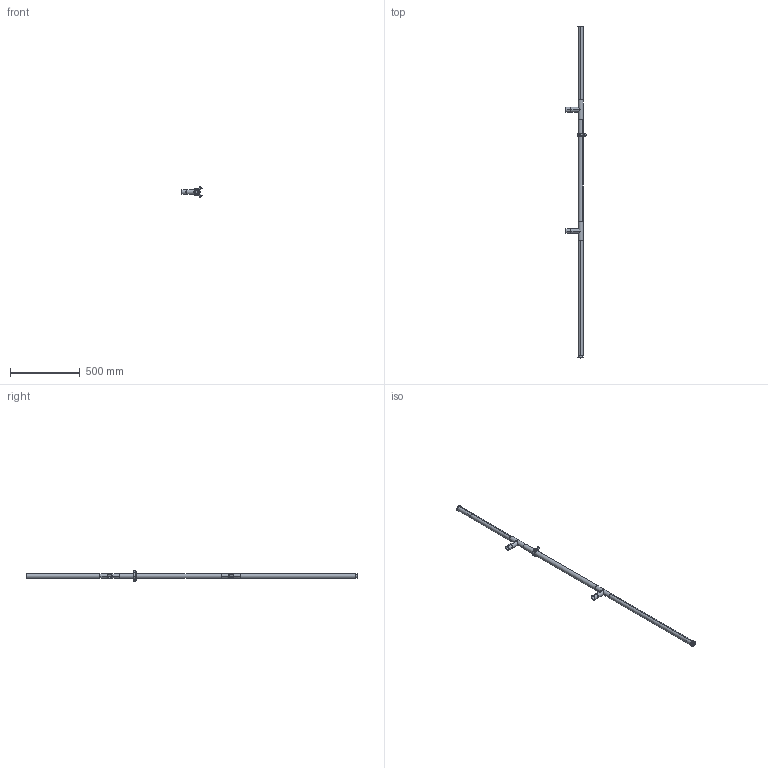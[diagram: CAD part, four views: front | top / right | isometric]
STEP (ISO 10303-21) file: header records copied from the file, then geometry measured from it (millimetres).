
FILE_DESCRIPTION (( 'STEP AP203' ), '1' );
FILE_NAME ('INFTC2380.STEP', '2026-03-03T08:03:34', ( '' ), ( '' ), 'SwSTEP 2.0', 'SolidWorks 2025', '' );
FILE_SCHEMA (( 'CONFIG_CONTROL_DESIGN' ));
Length unit declared in the file: millimetre
Products named in the file (9): INFRAT; INFAPP_100; INFAPP_20; INFFIX_Passante; INFTU_525; INFTU_825; INFTU_730; INFAPN; INFTC2380
Assembly tree (10 placements, depth 2):
  INFTC2380
    INFRAT  x2
    INFTU_730
    INFTU_825
    INFTU_525
    INFFIX_Passante  x2
    INFAPP_20
    INFAPN
    INFAPP_100
Bounding box: 143.67 x 2380 x 77.33 mm (x, y, z)
Volume: 506350.3 mm3; surface area: 566776 mm2
Topology: 10 solids, 10 shells, 151 faces, 344 edges, 223 vertices
Faces by surface type: cylinder 73, plane 50, torus 16, cone 12
Entity records: 5160 total; most frequent: CARTESIAN_POINT 1097, DIRECTION 699, ORIENTED_EDGE 592, EDGE_CURVE 296, AXIS2_PLACEMENT_3D 295, VERTEX_POINT 191, EDGE_LOOP 161, CIRCLE 150
